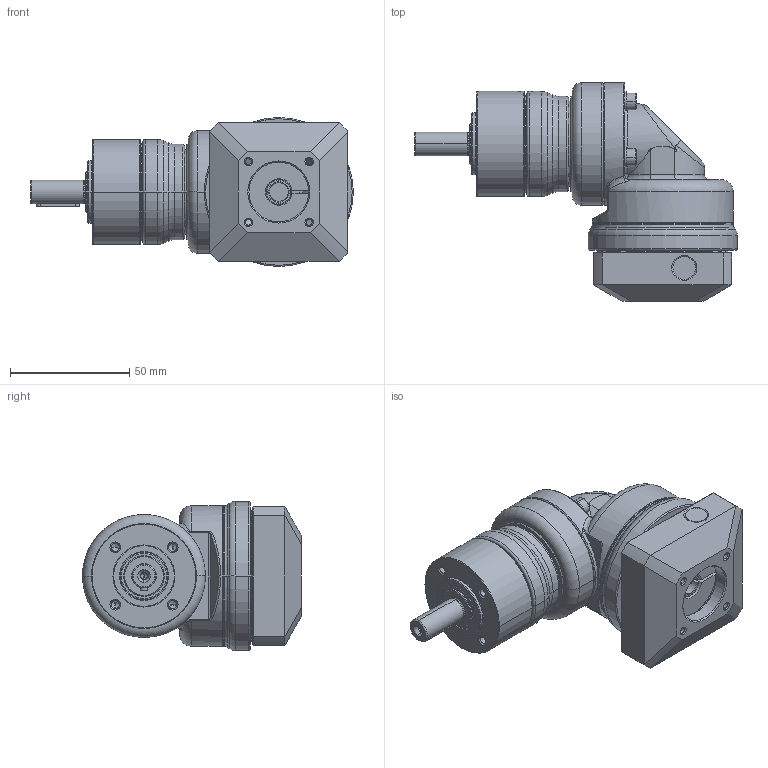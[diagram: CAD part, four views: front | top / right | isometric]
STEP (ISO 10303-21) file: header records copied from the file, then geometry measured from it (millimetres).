
FILE_DESCRIPTION((''),'2;1');
FILE_NAME('PG2R-040_1ST_8-P0411100101_ASM','2016-04-20T',('d01943'),(''),'PRO/ENGINEER BY PARAMETRIC TECHNOLOGY CORPORATION, 2008410','PRO/ENGINEER BY PARAMETRIC TECHNOLOGY CORPORATION, 2008410','');
FILE_SCHEMA(('CONFIG_CONTROL_DESIGN'));
Length unit declared in the file: millimetre
Products named in the file (12): P1325100001; P0250100001; P0350101103; P1349100001; P1017100001; P0713100001; P0503100005; P1350100001; P0411100101; P1702300001; 2111B104015; PG2R-040_1ST_8-P0411100101_ASM
Assembly tree (14 placements, depth 2):
  PG2R-040_1ST_8-P0411100101_ASM
    P1325100001
    P0250100001
    P0350101103
    P1349100001
    P1017100001
    P0713100001
    P0503100005
    P1350100001
    P0411100101
    P1702300001
    2111B104015  x4
Bounding box: 135.25 x 91.75 x 62.5 mm (x, y, z)
Volume: 182974.1 mm3; surface area: 72800.3 mm2
Topology: 14 solids, 15 shells, 729 faces, 1610 edges, 935 vertices
Faces by surface type: cylinder 222, cone 206, plane 162, torus 104, bspline 35
Entity records: 23441 total; most frequent: CARTESIAN_POINT 9270, DIRECTION 3141, ORIENTED_EDGE 2748, EDGE_CURVE 1374, AXIS2_PLACEMENT_3D 1331, VERTEX_POINT 815, EDGE_LOOP 713, CIRCLE 710
